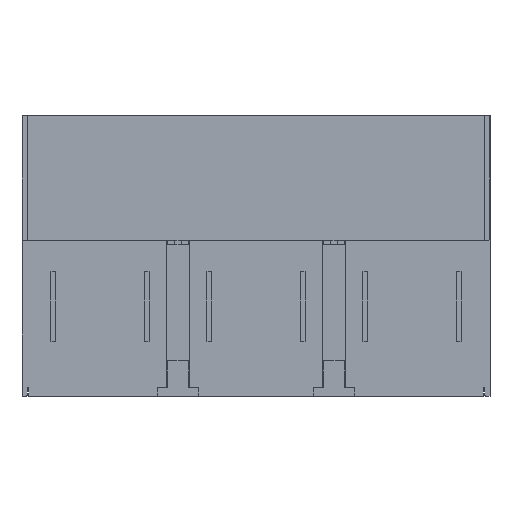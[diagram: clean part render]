
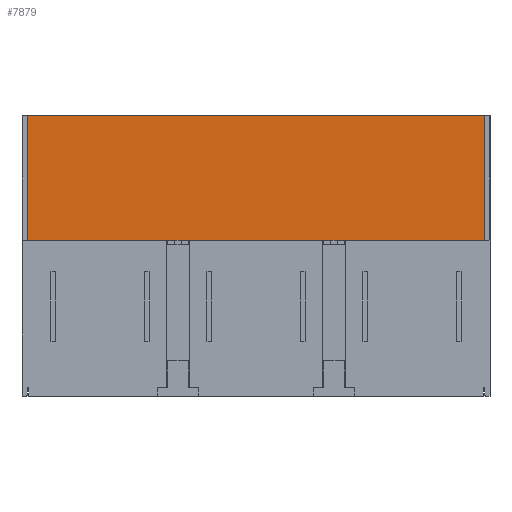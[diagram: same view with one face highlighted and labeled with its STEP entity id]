
A CAD part, left-side view. The second image highlights one B-rep face of the part: STEP entity #7879.
In plain terms, the highlighted planar face has unit normal (-1, 0, 0).
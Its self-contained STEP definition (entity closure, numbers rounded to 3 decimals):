
#3519 = DIRECTION ( 'NONE',  ( 0., -1., 0. ) ) ;
#5581 = VERTEX_POINT ( 'NONE', #22304 ) ;
#6067 = LINE ( 'NONE', #93074, #74318 ) ;
#7879 = ADVANCED_FACE ( 'NONE', ( #95144 ), #65375, .F. ) ;
#8282 = ORIENTED_EDGE ( 'NONE', *, *, #67937, .F. ) ;
#10544 = DIRECTION ( 'NONE',  ( 0., 0., 1. ) ) ;
#10983 = CARTESIAN_POINT ( 'NONE',  ( 9., 4.5, -28. ) ) ;
#12296 = LINE ( 'NONE', #63217, #62922 ) ;
#12591 = DIRECTION ( 'NONE',  ( 0., 1., 0. ) ) ;
#12958 = DIRECTION ( 'NONE',  ( 0., -1., 0. ) ) ;
#14457 = VECTOR ( 'NONE', #12958, 1000. ) ;
#15049 = VECTOR ( 'NONE', #12591, 1000. ) ;
#18202 = DIRECTION ( 'NONE',  ( 0., 0., 1. ) ) ;
#20500 = LINE ( 'NONE', #93629, #85165 ) ;
#20999 = CARTESIAN_POINT ( 'NONE',  ( 9., 1.5, 39.36 ) ) ;
#21252 = CARTESIAN_POINT ( 'NONE',  ( 9., 1.5, -29. ) ) ;
#22304 = CARTESIAN_POINT ( 'NONE',  ( 9., 100.5, -29. ) ) ;
#24402 = CARTESIAN_POINT ( 'NONE',  ( 9., 1.2, -29. ) ) ;
#25609 = DIRECTION ( 'NONE',  ( 0., 0., -1. ) ) ;
#27984 = EDGE_CURVE ( 'NONE', #86887, #30602, #12296, .T. ) ;
#28235 = EDGE_CURVE ( 'NONE', #34501, #35351, #86413, .T. ) ;
#30602 = VERTEX_POINT ( 'NONE', #10983 ) ;
#32757 = EDGE_CURVE ( 'NONE', #34501, #48839, #65516, .T. ) ;
#33913 = DIRECTION ( 'NONE',  ( 0., -1., 0. ) ) ;
#34501 = VERTEX_POINT ( 'NONE', #48487 ) ;
#35351 = VERTEX_POINT ( 'NONE', #60835 ) ;
#40746 = ORIENTED_EDGE ( 'NONE', *, *, #32757, .F. ) ;
#40978 = ORIENTED_EDGE ( 'NONE', *, *, #59701, .T. ) ;
#43281 = DIRECTION ( 'NONE',  ( 0., 0., -1. ) ) ;
#44287 = VECTOR ( 'NONE', #33913, 1000. ) ;
#45376 = ORIENTED_EDGE ( 'NONE', *, *, #71299, .T. ) ;
#47544 = VECTOR ( 'NONE', #25609, 1000. ) ;
#48487 = CARTESIAN_POINT ( 'NONE',  ( 9., 103.8, 0. ) ) ;
#48839 = VERTEX_POINT ( 'NONE', #94832 ) ;
#56775 = VECTOR ( 'NONE', #43281, 1000. ) ;
#56875 = LINE ( 'NONE', #21252, #14457 ) ;
#58384 = EDGE_LOOP ( 'NONE', ( #78722, #78707, #82897, #8282, #72155, #40978, #45376, #40746 ) ) ;
#59701 = EDGE_CURVE ( 'NONE', #86887, #92537, #56875, .T. ) ;
#59835 = AXIS2_PLACEMENT_3D ( 'NONE', #20999, #95884, #79794 ) ;
#60835 = CARTESIAN_POINT ( 'NONE',  ( 9., 103.8, -29. ) ) ;
#60923 = LINE ( 'NONE', #95442, #15049 ) ;
#62922 = VECTOR ( 'NONE', #18202, 1000. ) ;
#63217 = CARTESIAN_POINT ( 'NONE',  ( 9., 4.5, 39.36 ) ) ;
#65375 = PLANE ( 'NONE',  #59835 ) ;
#65516 = LINE ( 'NONE', #95296, #44287 ) ;
#67937 = EDGE_CURVE ( 'NONE', #30602, #71338, #60923, .T. ) ;
#70184 = EDGE_CURVE ( 'NONE', #35351, #5581, #20500, .T. ) ;
#70680 = CARTESIAN_POINT ( 'NONE',  ( 9., 103.8, -63. ) ) ;
#71168 = CARTESIAN_POINT ( 'NONE',  ( 9., 4.5, -29. ) ) ;
#71299 = EDGE_CURVE ( 'NONE', #92537, #48839, #6067, .T. ) ;
#71338 = VERTEX_POINT ( 'NONE', #93404 ) ;
#72155 = ORIENTED_EDGE ( 'NONE', *, *, #27984, .F. ) ;
#72834 = CARTESIAN_POINT ( 'NONE',  ( 9., 100.5, 39.36 ) ) ;
#74318 = VECTOR ( 'NONE', #10544, 1000. ) ;
#78707 = ORIENTED_EDGE ( 'NONE', *, *, #70184, .T. ) ;
#78722 = ORIENTED_EDGE ( 'NONE', *, *, #28235, .T. ) ;
#79794 = DIRECTION ( 'NONE',  ( 0., 0., -1. ) ) ;
#82897 = ORIENTED_EDGE ( 'NONE', *, *, #88238, .F. ) ;
#85165 = VECTOR ( 'NONE', #3519, 1000. ) ;
#86413 = LINE ( 'NONE', #70680, #47544 ) ;
#86887 = VERTEX_POINT ( 'NONE', #71168 ) ;
#88238 = EDGE_CURVE ( 'NONE', #71338, #5581, #93127, .T. ) ;
#92537 = VERTEX_POINT ( 'NONE', #24402 ) ;
#93074 = CARTESIAN_POINT ( 'NONE',  ( 9., 1.2, -63. ) ) ;
#93127 = LINE ( 'NONE', #72834, #56775 ) ;
#93404 = CARTESIAN_POINT ( 'NONE',  ( 9., 100.5, -28. ) ) ;
#93629 = CARTESIAN_POINT ( 'NONE',  ( 9., 1.5, -29. ) ) ;
#94832 = CARTESIAN_POINT ( 'NONE',  ( 9., 1.2, 0. ) ) ;
#95144 = FACE_OUTER_BOUND ( 'NONE', #58384, .T. ) ;
#95296 = CARTESIAN_POINT ( 'NONE',  ( 9., 52.5, 0. ) ) ;
#95442 = CARTESIAN_POINT ( 'NONE',  ( 9., 1.5, -28. ) ) ;
#95884 = DIRECTION ( 'NONE',  ( 1., 0., 0. ) ) ;
